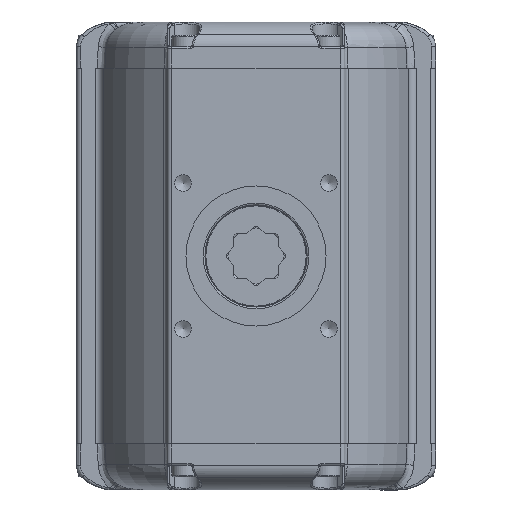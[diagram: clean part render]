
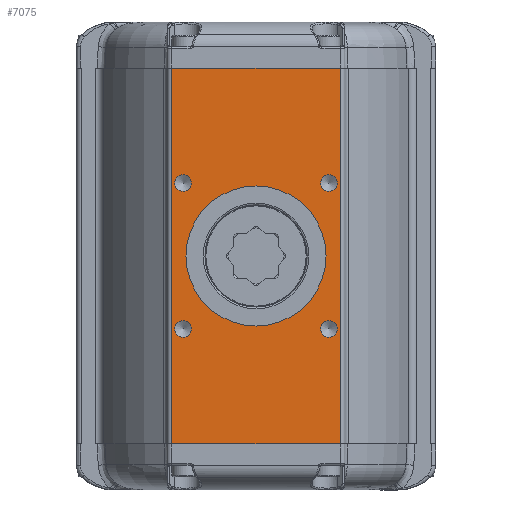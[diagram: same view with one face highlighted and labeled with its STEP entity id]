
A CAD part, front view. The second image highlights one B-rep face of the part: STEP entity #7075.
In plain terms, the highlighted planar face has unit normal (0, -1, 0).
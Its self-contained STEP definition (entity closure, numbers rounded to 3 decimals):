
#6962=CARTESIAN_POINT('',(-51.,-112.,114.0));
#6963=VERTEX_POINT('',#6962);
#6972=CARTESIAN_POINT('',(-51.,-112.,-114.0));
#6973=VERTEX_POINT('',#6972);
#6981=CARTESIAN_POINT('',(-51.,-112.,-114.0));
#6982=DIRECTION('',(0.0,0.0,1.0));
#6983=VECTOR('',#6982,228.0);
#6984=LINE('',#6981,#6983);
#6985=EDGE_CURVE('',#6973,#6963,#6984,.T.);
#6990=CARTESIAN_POINT('',(54.,-112.,0.0));
#6991=DIRECTION('',(0.0,-1.0,0.0));
#6992=DIRECTION('',(0.0,0.0,-1.0));
#6993=AXIS2_PLACEMENT_3D('',#6990,#6991,#6992);
#6994=PLANE('',#6993);
#6995=CARTESIAN_POINT('',(51.,-112.,114.0));
#6996=VERTEX_POINT('',#6995);
#6997=CARTESIAN_POINT('',(51.,-112.,-114.0));
#6998=VERTEX_POINT('',#6997);
#6999=CARTESIAN_POINT('',(51.,-112.,114.0));
#7000=DIRECTION('',(0.0,0.0,-1.0));
#7001=VECTOR('',#7000,228.0);
#7002=LINE('',#6999,#7001);
#7003=EDGE_CURVE('',#6996,#6998,#7002,.T.);
#7004=ORIENTED_EDGE('',*,*,#7003,.F.);
#7005=CARTESIAN_POINT('',(51.,-112.,114.0));
#7006=DIRECTION('',(-1.0,0.0,0.0));
#7007=VECTOR('',#7006,102.);
#7008=LINE('',#7005,#7007);
#7009=EDGE_CURVE('',#6996,#6963,#7008,.T.);
#7010=ORIENTED_EDGE('',*,*,#7009,.T.);
#7011=ORIENTED_EDGE('',*,*,#6985,.F.);
#7012=CARTESIAN_POINT('',(-51.,-112.,-114.0));
#7013=DIRECTION('',(1.0,0.0,0.0));
#7014=VECTOR('',#7013,102.);
#7015=LINE('',#7012,#7014);
#7016=EDGE_CURVE('',#6973,#6998,#7015,.T.);
#7017=ORIENTED_EDGE('',*,*,#7016,.T.);
#7018=EDGE_LOOP('',(#7004,#7010,#7011,#7017));
#7019=FACE_OUTER_BOUND('',#7018,.T.);
#7020=CARTESIAN_POINT('',(49.247,-112.,-44.194));
#7021=VERTEX_POINT('',#7020);
#7022=CARTESIAN_POINT('',(44.194,-112.,-44.194));
#7023=DIRECTION('',(0.0,1.0,0.0));
#7024=DIRECTION('',(1.0,0.0,0.0));
#7025=AXIS2_PLACEMENT_3D('',#7022,#7023,#7024);
#7026=CIRCLE('',#7025,5.053);
#7027=EDGE_CURVE('',#7021,#7021,#7026,.T.);
#7028=ORIENTED_EDGE('',*,*,#7027,.T.);
#7029=EDGE_LOOP('',(#7028));
#7030=FACE_BOUND('',#7029,.T.);
#7031=CARTESIAN_POINT('',(-39.141,-112.,44.194));
#7032=VERTEX_POINT('',#7031);
#7033=CARTESIAN_POINT('',(-44.194,-112.,44.194));
#7034=DIRECTION('',(0.0,1.0,0.0));
#7035=DIRECTION('',(1.0,0.0,0.0));
#7036=AXIS2_PLACEMENT_3D('',#7033,#7034,#7035);
#7037=CIRCLE('',#7036,5.053);
#7038=EDGE_CURVE('',#7032,#7032,#7037,.T.);
#7039=ORIENTED_EDGE('',*,*,#7038,.T.);
#7040=EDGE_LOOP('',(#7039));
#7041=FACE_BOUND('',#7040,.T.);
#7042=CARTESIAN_POINT('',(49.247,-112.,44.194));
#7043=VERTEX_POINT('',#7042);
#7044=CARTESIAN_POINT('',(44.194,-112.,44.194));
#7045=DIRECTION('',(0.0,1.0,0.0));
#7046=DIRECTION('',(1.0,0.0,0.0));
#7047=AXIS2_PLACEMENT_3D('',#7044,#7045,#7046);
#7048=CIRCLE('',#7047,5.053);
#7049=EDGE_CURVE('',#7043,#7043,#7048,.T.);
#7050=ORIENTED_EDGE('',*,*,#7049,.T.);
#7051=EDGE_LOOP('',(#7050));
#7052=FACE_BOUND('',#7051,.T.);
#7053=CARTESIAN_POINT('',(-39.141,-112.,-44.194));
#7054=VERTEX_POINT('',#7053);
#7055=CARTESIAN_POINT('',(-44.194,-112.,-44.194));
#7056=DIRECTION('',(0.0,1.0,0.0));
#7057=DIRECTION('',(1.0,0.0,0.0));
#7058=AXIS2_PLACEMENT_3D('',#7055,#7056,#7057);
#7059=CIRCLE('',#7058,5.053);
#7060=EDGE_CURVE('',#7054,#7054,#7059,.T.);
#7061=ORIENTED_EDGE('',*,*,#7060,.T.);
#7062=EDGE_LOOP('',(#7061));
#7063=FACE_BOUND('',#7062,.T.);
#7064=CARTESIAN_POINT('',(0.0,-112.,42.5));
#7065=VERTEX_POINT('',#7064);
#7066=CARTESIAN_POINT('',(0.0,-112.,0.0));
#7067=DIRECTION('',(0.0,1.0,0.0));
#7068=DIRECTION('',(0.0,0.0,1.0));
#7069=AXIS2_PLACEMENT_3D('',#7066,#7067,#7068);
#7070=CIRCLE('',#7069,42.5);
#7071=EDGE_CURVE('',#7065,#7065,#7070,.T.);
#7072=ORIENTED_EDGE('',*,*,#7071,.T.);
#7073=EDGE_LOOP('',(#7072));
#7074=FACE_BOUND('',#7073,.T.);
#7075=ADVANCED_FACE('',(#7019,#7030,#7041,#7052,#7063,#7074),#6994,.T.);
